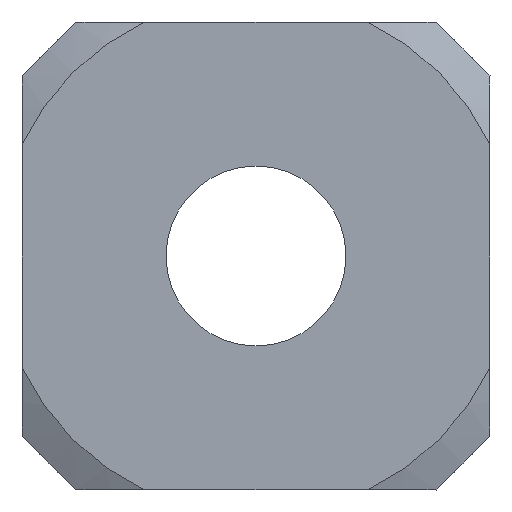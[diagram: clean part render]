
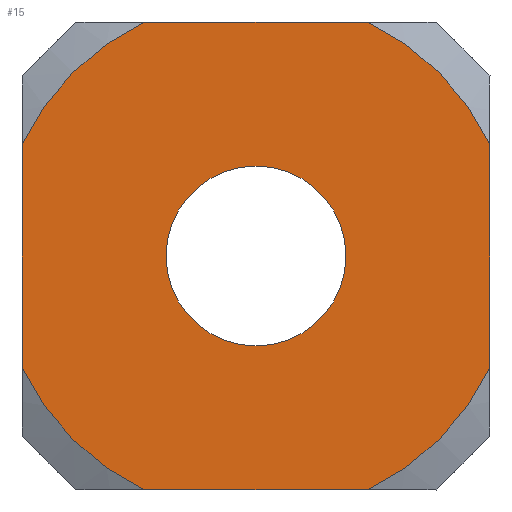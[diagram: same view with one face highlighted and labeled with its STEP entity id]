
A CAD part, front view. The second image highlights one B-rep face of the part: STEP entity #15.
In plain terms, the highlighted planar face has unit normal (0, -1, 0).
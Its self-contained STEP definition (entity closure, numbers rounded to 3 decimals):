
#12 = DIRECTION ( 'NONE',  ( 0., 0., -1. ) ) ;
#13 = EDGE_CURVE ( 'NONE', #371, #380, #631, .T. ) ;
#15 = ADVANCED_FACE ( 'NONE', ( #414, #58 ), #182, .T. ) ;
#21 = ORIENTED_EDGE ( 'NONE', *, *, #320, .T. ) ;
#35 = VERTEX_POINT ( 'NONE', #301 ) ;
#39 = DIRECTION ( 'NONE',  ( 0., -1., 0. ) ) ;
#43 = CARTESIAN_POINT ( 'NONE',  ( 0., 0., 0. ) ) ;
#55 = CARTESIAN_POINT ( 'NONE',  ( 0., 0., 0. ) ) ;
#58 = FACE_BOUND ( 'NONE', #338, .T. ) ;
#68 = CARTESIAN_POINT ( 'NONE',  ( 0., 0., 6.5 ) ) ;
#71 = CIRCLE ( 'NONE', #264, 7.2 ) ;
#82 = CIRCLE ( 'NONE', #376, 7.2 ) ;
#85 = ORIENTED_EDGE ( 'NONE', *, *, #724, .T. ) ;
#86 = CARTESIAN_POINT ( 'NONE',  ( 0., 0., 0. ) ) ;
#93 = DIRECTION ( 'NONE',  ( 0., 1., 0. ) ) ;
#113 = LINE ( 'NONE', #68, #732 ) ;
#114 = CARTESIAN_POINT ( 'NONE',  ( -6.5, 0., 0. ) ) ;
#116 = CIRCLE ( 'NONE', #586, 2.5 ) ;
#132 = DIRECTION ( 'NONE',  ( 0., 0., -1. ) ) ;
#143 = ORIENTED_EDGE ( 'NONE', *, *, #13, .T. ) ;
#150 = VERTEX_POINT ( 'NONE', #325 ) ;
#151 = CARTESIAN_POINT ( 'NONE',  ( -6.5, 0., -3.097 ) ) ;
#160 = AXIS2_PLACEMENT_3D ( 'NONE', #233, #421, #132 ) ;
#166 = AXIS2_PLACEMENT_3D ( 'NONE', #569, #39, #271 ) ;
#169 = VERTEX_POINT ( 'NONE', #223 ) ;
#182 = PLANE ( 'NONE',  #160 ) ;
#196 = DIRECTION ( 'NONE',  ( 0., 0., 1. ) ) ;
#203 = ORIENTED_EDGE ( 'NONE', *, *, #587, .T. ) ;
#216 = VERTEX_POINT ( 'NONE', #246 ) ;
#223 = CARTESIAN_POINT ( 'NONE',  ( 6.5, 0., 3.097 ) ) ;
#224 = VERTEX_POINT ( 'NONE', #537 ) ;
#233 = CARTESIAN_POINT ( 'NONE',  ( 0., 0., 0. ) ) ;
#237 = DIRECTION ( 'NONE',  ( 0., -1., 0. ) ) ;
#241 = VECTOR ( 'NONE', #196, 1000. ) ;
#246 = CARTESIAN_POINT ( 'NONE',  ( 0., 0., 2.5 ) ) ;
#249 = CIRCLE ( 'NONE', #349, 2.5 ) ;
#250 = DIRECTION ( 'NONE',  ( 0., 0., 1. ) ) ;
#254 = EDGE_CURVE ( 'NONE', #380, #526, #643, .T. ) ;
#255 = CARTESIAN_POINT ( 'NONE',  ( -6.5, 0., 3.097 ) ) ;
#264 = AXIS2_PLACEMENT_3D ( 'NONE', #55, #689, #748 ) ;
#271 = DIRECTION ( 'NONE',  ( 0., 0., 1. ) ) ;
#289 = DIRECTION ( 'NONE',  ( 1., 0., 0. ) ) ;
#296 = DIRECTION ( 'NONE',  ( -1., 0., 0. ) ) ;
#301 = CARTESIAN_POINT ( 'NONE',  ( 3.097, 0., 6.5 ) ) ;
#311 = VERTEX_POINT ( 'NONE', #438 ) ;
#320 = EDGE_CURVE ( 'NONE', #224, #169, #561, .T. ) ;
#323 = DIRECTION ( 'NONE',  ( 0., 0., 1. ) ) ;
#325 = CARTESIAN_POINT ( 'NONE',  ( 0., 0., -2.5 ) ) ;
#330 = EDGE_LOOP ( 'NONE', ( #738, #491, #85, #203, #21, #722, #750, #143 ) ) ;
#338 = EDGE_LOOP ( 'NONE', ( #457, #346 ) ) ;
#346 = ORIENTED_EDGE ( 'NONE', *, *, #503, .T. ) ;
#349 = AXIS2_PLACEMENT_3D ( 'NONE', #43, #741, #582 ) ;
#367 = DIRECTION ( 'NONE',  ( -1., 0., 0. ) ) ;
#371 = VERTEX_POINT ( 'NONE', #492 ) ;
#372 = CARTESIAN_POINT ( 'NONE',  ( 6.5, 0., 0. ) ) ;
#376 = AXIS2_PLACEMENT_3D ( 'NONE', #735, #443, #250 ) ;
#380 = VERTEX_POINT ( 'NONE', #255 ) ;
#391 = VECTOR ( 'NONE', #12, 1000. ) ;
#392 = EDGE_CURVE ( 'NONE', #169, #35, #82, .T. ) ;
#414 = FACE_OUTER_BOUND ( 'NONE', #330, .T. ) ;
#421 = DIRECTION ( 'NONE',  ( 0., -1., 0. ) ) ;
#433 = EDGE_CURVE ( 'NONE', #216, #150, #116, .T. ) ;
#438 = CARTESIAN_POINT ( 'NONE',  ( -3.097, 0., -6.5 ) ) ;
#443 = DIRECTION ( 'NONE',  ( 0., -1., 0. ) ) ;
#457 = ORIENTED_EDGE ( 'NONE', *, *, #433, .T. ) ;
#465 = CIRCLE ( 'NONE', #166, 7.2 ) ;
#491 = ORIENTED_EDGE ( 'NONE', *, *, #566, .T. ) ;
#492 = CARTESIAN_POINT ( 'NONE',  ( -3.097, 0., 6.5 ) ) ;
#503 = EDGE_CURVE ( 'NONE', #150, #216, #249, .T. ) ;
#526 = VERTEX_POINT ( 'NONE', #151 ) ;
#537 = CARTESIAN_POINT ( 'NONE',  ( 6.5, 0., -3.097 ) ) ;
#561 = LINE ( 'NONE', #372, #241 ) ;
#566 = EDGE_CURVE ( 'NONE', #526, #311, #71, .T. ) ;
#569 = CARTESIAN_POINT ( 'NONE',  ( 0., 0., 0. ) ) ;
#571 = AXIS2_PLACEMENT_3D ( 'NONE', #703, #237, #367 ) ;
#582 = DIRECTION ( 'NONE',  ( 0., 0., 1. ) ) ;
#586 = AXIS2_PLACEMENT_3D ( 'NONE', #86, #93, #323 ) ;
#587 = EDGE_CURVE ( 'NONE', #756, #224, #465, .T. ) ;
#631 = CIRCLE ( 'NONE', #571, 7.2 ) ;
#643 = LINE ( 'NONE', #114, #391 ) ;
#647 = CARTESIAN_POINT ( 'NONE',  ( 0., 0., -6.5 ) ) ;
#650 = LINE ( 'NONE', #647, #715 ) ;
#671 = CARTESIAN_POINT ( 'NONE',  ( 3.097, 0., -6.5 ) ) ;
#689 = DIRECTION ( 'NONE',  ( 0., -1., 0. ) ) ;
#703 = CARTESIAN_POINT ( 'NONE',  ( 0., 0., 0. ) ) ;
#715 = VECTOR ( 'NONE', #289, 1000. ) ;
#722 = ORIENTED_EDGE ( 'NONE', *, *, #392, .T. ) ;
#724 = EDGE_CURVE ( 'NONE', #311, #756, #650, .T. ) ;
#732 = VECTOR ( 'NONE', #296, 1000. ) ;
#735 = CARTESIAN_POINT ( 'NONE',  ( 0., 0., 0. ) ) ;
#738 = ORIENTED_EDGE ( 'NONE', *, *, #254, .T. ) ;
#741 = DIRECTION ( 'NONE',  ( 0., 1., 0. ) ) ;
#745 = EDGE_CURVE ( 'NONE', #35, #371, #113, .T. ) ;
#748 = DIRECTION ( 'NONE',  ( 0., 0., 1. ) ) ;
#750 = ORIENTED_EDGE ( 'NONE', *, *, #745, .T. ) ;
#756 = VERTEX_POINT ( 'NONE', #671 ) ;
